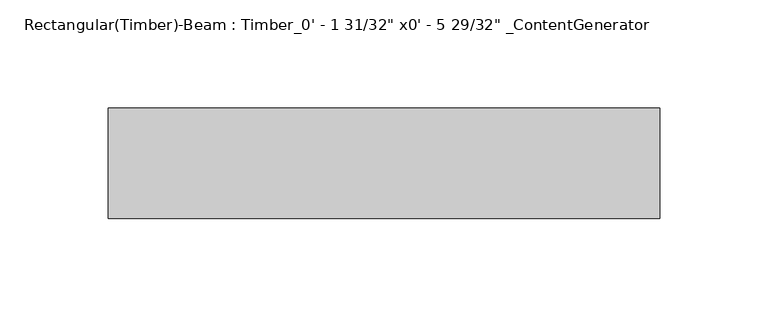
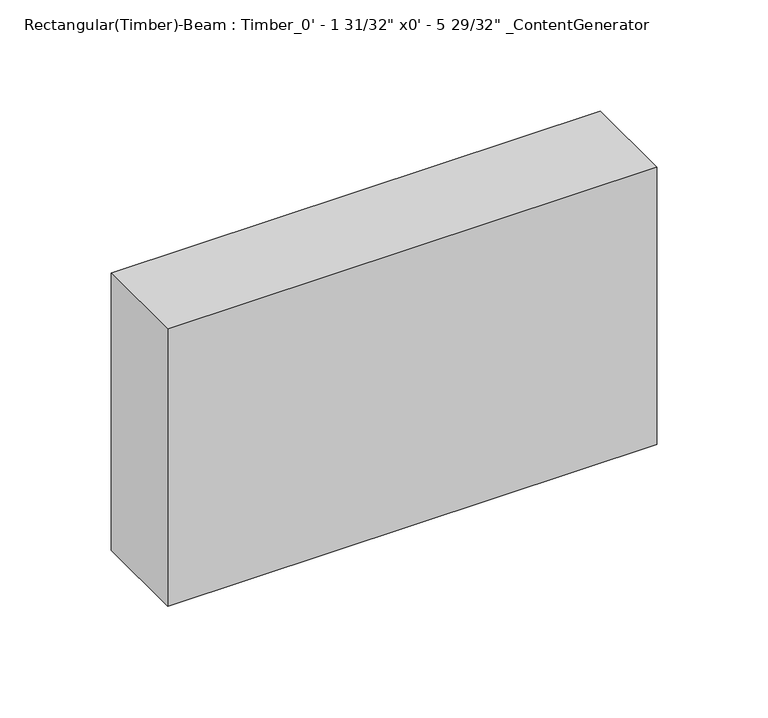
"""IFC4 building model written with IfcOpenShell, lengths in millimetres: beam geometry."""

from ifc_helpers import new_model, si_unit, frame, origin, place, context, project, spatial, polyline, outline, extrude, source, transform, mapped, element, save


def beam_a6087a68(model_context):
    return source(origin(), model_context, "Body", "SweptSolid", [
        extrude(outline(polyline([(126.9999994, 25.4), (126.9999994, -25.4), (-126.9999994, -25.4), (-126.9999994, 25.4), (126.9999994, 25.4)])), frame((0.0, 0.0, -76.2), z_axis=(0.0, 0.0, 1.0), x_axis=(1.0, 0.0, 0.0)), (0.0, 0.0, 1.0), 152.4),
    ])


if __name__ == "__main__":
    model = new_model("IFC4")
    model_context = context("Model", 3, world=origin())
    ifc_project = project(units=[si_unit("LENGTHUNIT", "METRE", prefix="MILLI")], contexts=[model_context])
    site = spatial("IfcSite", under=ifc_project)
    building = spatial("IfcBuilding", under=site)
    placement = place(None, origin())
    beam_shape = beam_a6087a68(model_context)
    element("IfcBeam", 1, ObjectType="Rectangular(Timber)-Beam : Timber_0' - 1 31/32\" x0' - 5 29/32\" _ContentGenerator", at=placement, inside=building, context=model_context, shape_type="MappedRepresentation", body=[
        mapped(beam_shape, transform((0.0, 0.0, 0.0), x_axis=(1.0, 0.0, 0.0), y_axis=(0.0, 1.0, 0.0), z_axis=(0.0, 0.0, 1.0))),
    ])
    save(model, "model.ifc")
